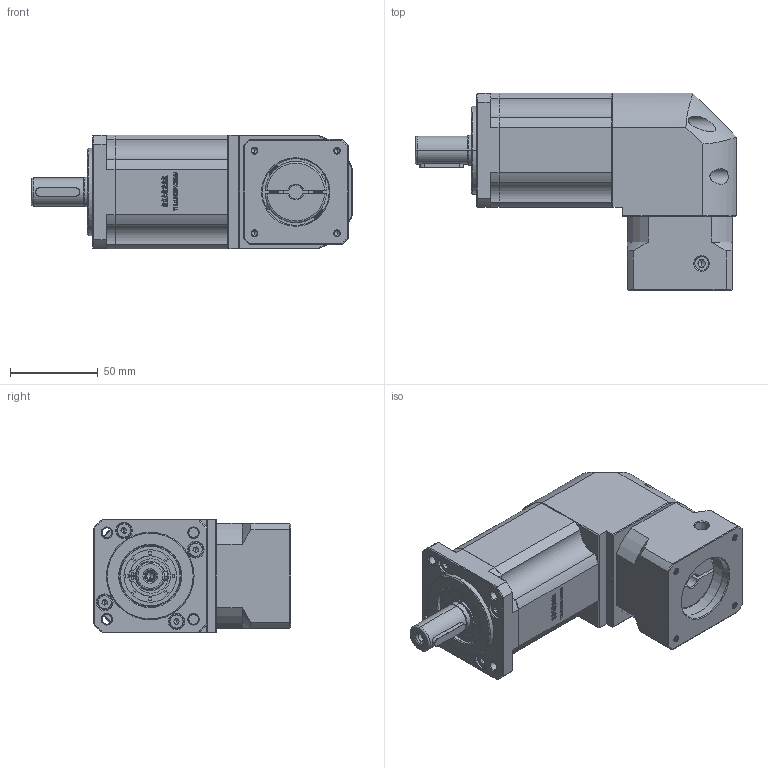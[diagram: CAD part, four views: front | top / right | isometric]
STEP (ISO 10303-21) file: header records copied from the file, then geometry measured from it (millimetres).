
FILE_DESCRIPTION (( 'STEP AP214' ), '1' );
FILE_NAME ('ZBR60-D16-L3-8-38.1-47.14x47.14-M4.STEP', '2022-04-19T08:08:50', ( '' ), ( 'Microsoft' ), 'SwSTEP 2.0', 'SolidWorks 2016', '' );
FILE_SCHEMA (( 'AUTOMOTIVE_DESIGN' ));
Length unit declared in the file: millimetre
Products named in the file (1): ZBR60-D16-L3-8-38.1-47.14x47.14-M4
Bounding box: 183.5 x 112.7 x 65 mm (x, y, z)
Volume: 653083.5 mm3; surface area: 87109.5 mm2
Topology: 5 solids, 5 shells, 2838 faces, 7695 edges, 4994 vertices
Faces by surface type: plane 1473, bspline 579, cylinder 426, cone 328, torus 32
Entity records: 152860 total; most frequent: CARTESIAN_POINT 54430, ORIENTED_EDGE 15330, DIRECTION 11703, EDGE_CURVE 7665, VECTOR 5041, LINE 5041, VERTEX_POINT 4994, AXIS2_PLACEMENT_3D 3331
